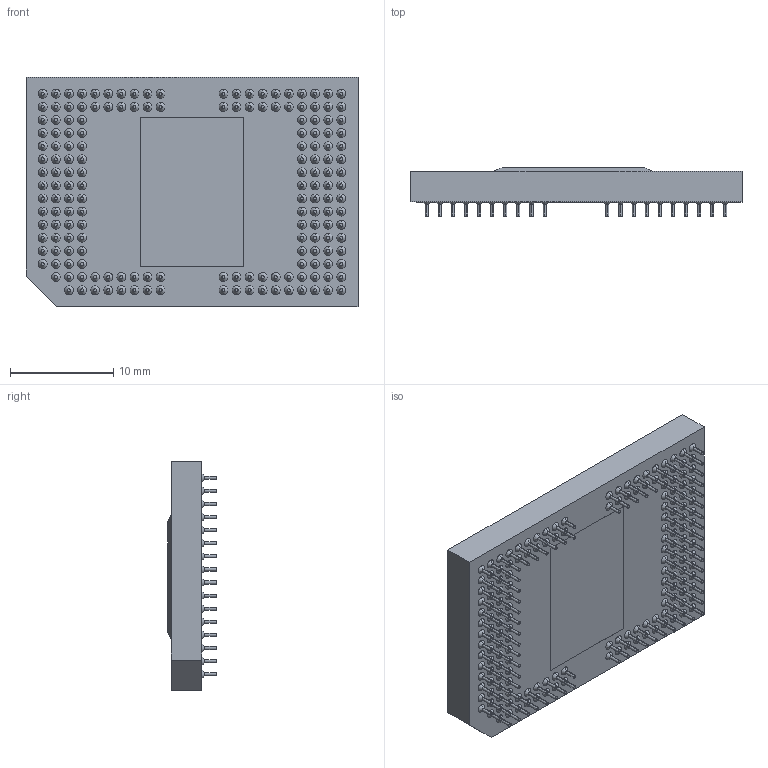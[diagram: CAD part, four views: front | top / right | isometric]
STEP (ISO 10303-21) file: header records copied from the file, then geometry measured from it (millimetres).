
FILE_DESCRIPTION (( 'STEP AP214' ), '1' );
FILE_NAME ('2519115-FXL-s460-47-subLVDS-DMD.STEP', '2025-08-21T16:35:55', ( '' ), ( '' ), 'SwSTEP 2.0', 'SolidWorks 2024', '' );
FILE_SCHEMA (( 'AUTOMOTIVE_DESIGN' ));
Length unit declared in the file: millimetre
Products named in the file (4): s460-DMD-SymbolizePad; s460-47-subLVDS-Window; 2519115-FXL-s460-47-subLVDS-DMD; s460-47-subLVDS-Ceramic
Assembly tree (3 placements, depth 2):
  2519115-FXL-s460-47-subLVDS-DMD
    s460-47-subLVDS-Ceramic
    s460-47-subLVDS-Window
    s460-DMD-SymbolizePad
Bounding box: 32.2 x 4.72 x 22.3 mm (x, y, z)
Volume: 2117.7 mm3; surface area: 2806.9 mm2
Topology: 3 solids, 3 shells, 944 faces, 1910 edges, 1154 vertices
Faces by surface type: cylinder 360, cone 346, plane 238
Entity records: 24797 total; most frequent: DIRECTION 4876, CARTESIAN_POINT 4014, ORIENTED_EDGE 3820, AXIS2_PLACEMENT_3D 2016, EDGE_CURVE 1910, VERTEX_POINT 1154, EDGE_LOOP 1126, CIRCLE 1066
